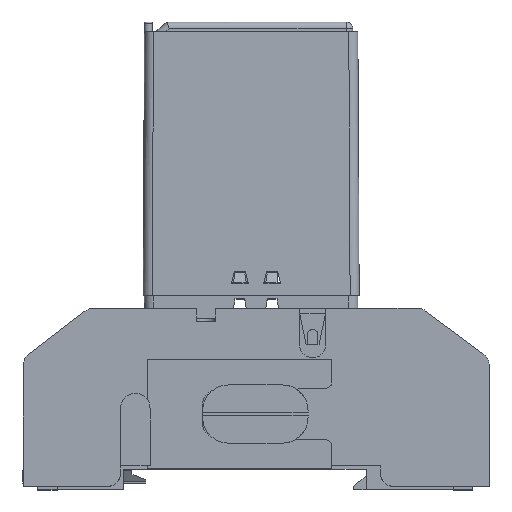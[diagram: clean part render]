
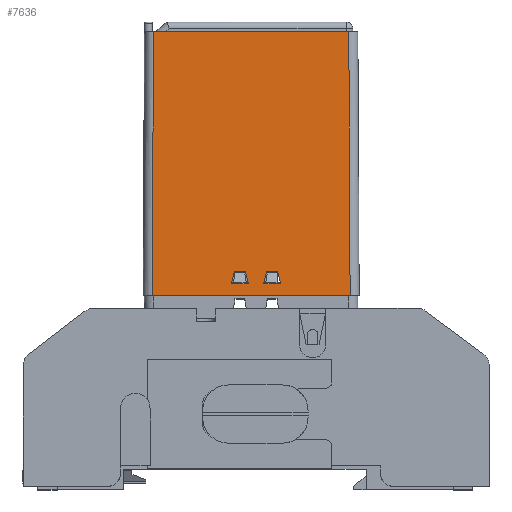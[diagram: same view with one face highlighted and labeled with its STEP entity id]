
A CAD part, top view. The second image highlights one B-rep face of the part: STEP entity #7636.
In plain terms, the highlighted planar face has unit normal (0, 0.005, 1) as drawn and (0, 0.005, -1) by its records, which use the part's own axes.
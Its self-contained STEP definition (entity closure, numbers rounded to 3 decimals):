
#7636=ADVANCED_FACE('',(#16551,#16553,#16555),#16557,.T.);
#16551=FACE_BOUND('',#16552,.T.);
#16552=EDGE_LOOP('',(#23718,#23719,#23720,#23721));
#16553=FACE_BOUND('',#16554,.T.);
#16554=EDGE_LOOP('',(#23722,#23723,#23724,#23725));
#16555=FACE_BOUND('',#16556,.T.);
#16556=EDGE_LOOP('',(#23726,#23727,#23728,#23729));
#16557=PLANE('',#16558);
#16558=AXIS2_PLACEMENT_3D('',#16559,#16560,#16561);
#16559=CARTESIAN_POINT('',(-15.1,44.3,-13.75));
#16560=DIRECTION('',(0.,0.005,-1.));
#16561=DIRECTION('',(1.,0.,0.));
#23718=ORIENTED_EDGE('',*,*,#27207,.F.);
#23719=ORIENTED_EDGE('',*,*,#27774,.F.);
#23720=ORIENTED_EDGE('',*,*,#27775,.T.);
#23721=ORIENTED_EDGE('',*,*,#27533,.T.);
#23722=ORIENTED_EDGE('',*,*,#27776,.T.);
#23723=ORIENTED_EDGE('',*,*,#27777,.T.);
#23724=ORIENTED_EDGE('',*,*,#27778,.T.);
#23725=ORIENTED_EDGE('',*,*,#27779,.T.);
#23726=ORIENTED_EDGE('',*,*,#27780,.T.);
#23727=ORIENTED_EDGE('',*,*,#27781,.T.);
#23728=ORIENTED_EDGE('',*,*,#27782,.T.);
#23729=ORIENTED_EDGE('',*,*,#27783,.T.);
#27207=EDGE_CURVE('',#31504,#31506,#31507,.T.);
#27533=EDGE_CURVE('',#32023,#31506,#32024,.T.);
#27774=EDGE_CURVE('',#32439,#31504,#32441,.T.);
#27775=EDGE_CURVE('',#32439,#32023,#32442,.T.);
#27776=EDGE_CURVE('',#32443,#32444,#32445,.F.);
#27777=EDGE_CURVE('',#32444,#32446,#32447,.F.);
#27778=EDGE_CURVE('',#32446,#32448,#32449,.F.);
#27779=EDGE_CURVE('',#32448,#32443,#32450,.F.);
#27780=EDGE_CURVE('',#32451,#32452,#32453,.F.);
#27781=EDGE_CURVE('',#32452,#32454,#32455,.F.);
#27782=EDGE_CURVE('',#32454,#32456,#32457,.F.);
#27783=EDGE_CURVE('',#32456,#32451,#32458,.F.);
#31504=VERTEX_POINT('',#40426);
#31506=VERTEX_POINT('',#40431);
#31507=LINE('',#40432,#40433);
#32023=VERTEX_POINT('',#41645);
#32024=LINE('',#41646,#41647);
#32439=VERTEX_POINT('',#42598);
#32441=LINE('',#42603,#42604);
#32442=LINE('',#42606,#42607);
#32443=VERTEX_POINT('',#42609);
#32444=VERTEX_POINT('',#42610);
#32445=LINE('',#42611,#42612);
#32446=VERTEX_POINT('',#42614);
#32447=LINE('',#42615,#42616);
#32448=VERTEX_POINT('',#42618);
#32449=LINE('',#42619,#42620);
#32450=LINE('',#42622,#42623);
#32451=VERTEX_POINT('',#42625);
#32452=VERTEX_POINT('',#42626);
#32453=LINE('',#42627,#42628);
#32454=VERTEX_POINT('',#42630);
#32455=LINE('',#42631,#42632);
#32456=VERTEX_POINT('',#42634);
#32457=LINE('',#42635,#42636);
#32458=LINE('',#42638,#42639);
#40426=CARTESIAN_POINT('',(-15.3,3.5,-13.95));
#40431=CARTESIAN_POINT('',(15.3,3.5,-13.95));
#40432=CARTESIAN_POINT('',(-15.3,3.5,-13.95));
#40433=VECTOR('',#40434,1.);
#40434=DIRECTION('',(1.,0.,0.));
#41645=CARTESIAN_POINT('',(15.1,44.3,-13.75));
#41646=CARTESIAN_POINT('',(15.1,44.3,-13.75));
#41647=VECTOR('',#41648,1.);
#41648=DIRECTION('',(0.005,-1.,-0.005));
#42598=CARTESIAN_POINT('',(-15.1,44.3,-13.75));
#42603=CARTESIAN_POINT('',(-15.1,44.3,-13.75));
#42604=VECTOR('',#42605,1.);
#42605=DIRECTION('',(-0.005,-1.,-0.005));
#42606=CARTESIAN_POINT('',(-15.1,44.3,-13.75));
#42607=VECTOR('',#42608,1.);
#42608=DIRECTION('',(1.,0.,0.));
#42609=CARTESIAN_POINT('',(-2.35,7.15,-13.932));
#42610=CARTESIAN_POINT('',(-4.15,7.15,-13.932));
#42611=CARTESIAN_POINT('',(-4.15,7.15,-13.932));
#42612=VECTOR('',#42613,1.);
#42613=DIRECTION('',(1.,0.,0.));
#42614=CARTESIAN_POINT('',(-4.55,5.35,-13.941));
#42615=CARTESIAN_POINT('',(-4.55,5.35,-13.941));
#42616=VECTOR('',#42617,1.);
#42617=DIRECTION('',(0.217,0.976,0.005));
#42618=CARTESIAN_POINT('',(-1.95,5.35,-13.941));
#42619=CARTESIAN_POINT('',(-1.95,5.35,-13.941));
#42620=VECTOR('',#42621,1.);
#42621=DIRECTION('',(-1.,0.,0.));
#42622=CARTESIAN_POINT('',(-2.35,7.15,-13.932));
#42623=VECTOR('',#42624,1.);
#42624=DIRECTION('',(0.217,-0.976,-0.005));
#42625=CARTESIAN_POINT('',(0.45,5.35,-13.941));
#42626=CARTESIAN_POINT('',(3.05,5.35,-13.941));
#42627=CARTESIAN_POINT('',(3.05,5.35,-13.941));
#42628=VECTOR('',#42629,1.);
#42629=DIRECTION('',(-1.,0.,0.));
#42630=CARTESIAN_POINT('',(2.65,7.15,-13.932));
#42631=CARTESIAN_POINT('',(2.65,7.15,-13.932));
#42632=VECTOR('',#42633,1.);
#42633=DIRECTION('',(0.217,-0.976,-0.005));
#42634=CARTESIAN_POINT('',(0.85,7.15,-13.932));
#42635=CARTESIAN_POINT('',(0.85,7.15,-13.932));
#42636=VECTOR('',#42637,1.);
#42637=DIRECTION('',(1.,0.,0.));
#42638=CARTESIAN_POINT('',(0.45,5.35,-13.941));
#42639=VECTOR('',#42640,1.);
#42640=DIRECTION('',(0.217,0.976,0.005));
